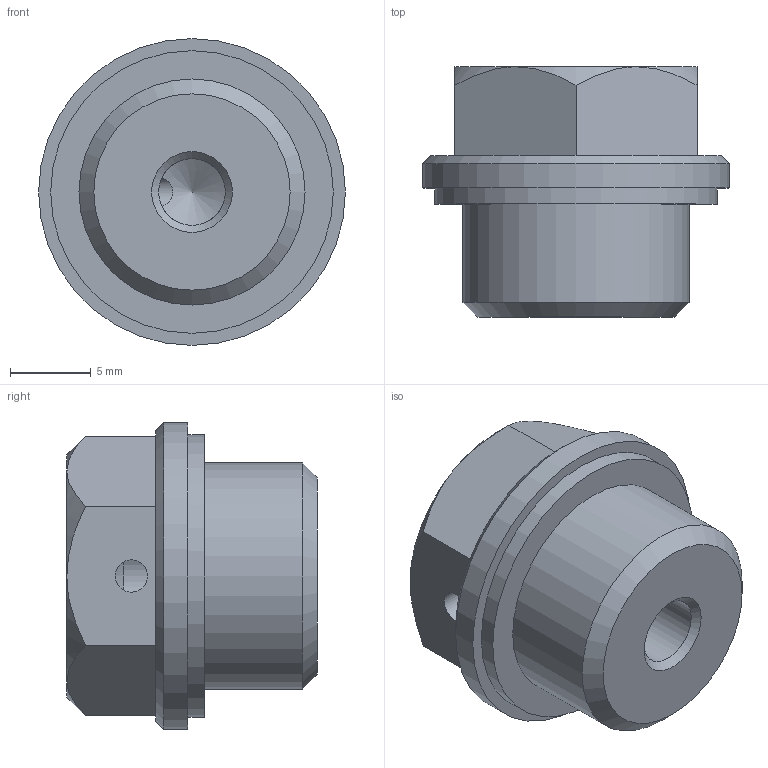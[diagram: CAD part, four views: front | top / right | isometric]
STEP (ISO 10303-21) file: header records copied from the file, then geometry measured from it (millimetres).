
FILE_DESCRIPTION( ( 'STEP AP203' ), '1' );
FILE_NAME( 'C:/Temp/Ganter_Step_05_03_2020/data/3_5/gn742/gn742_2/Threaded plug GN 742-19-M14x1,5-AS-2.stp', '2020-03-12T13:39:20', ( 'License CC BY-ND 4.0' ), ( 'CADENAS' ), ' ', 'PARTsolutions', ' ' );
FILE_SCHEMA( ( 'CONFIG_CONTROL_DESIGN' ) );
Length unit declared in the file: millimetre
Products named in the file (1): _Threaded plug GN 742-19-M14x1,5-AS-2
Bounding box: 19 x 15.5 x 19 mm (x, y, z)
Volume: 2739.6 mm3; surface area: 1464.7 mm2
Topology: 1 solids, 1 shells, 53 faces, 131 edges, 84 vertices
Faces by surface type: plane 38, cone 10, cylinder 5
Full cylindrical faces by diameter (mm): 2 x1, 4.134 x1, 14 x1, 17.5 x1, 19 x1
Entity records: 1617 total; most frequent: CARTESIAN_POINT 377, ORIENTED_EDGE 238, DIRECTION 231, EDGE_CURVE 119, LINE 87, VECTOR 87, VERTEX_POINT 82, AXIS2_PLACEMENT_3D 72
